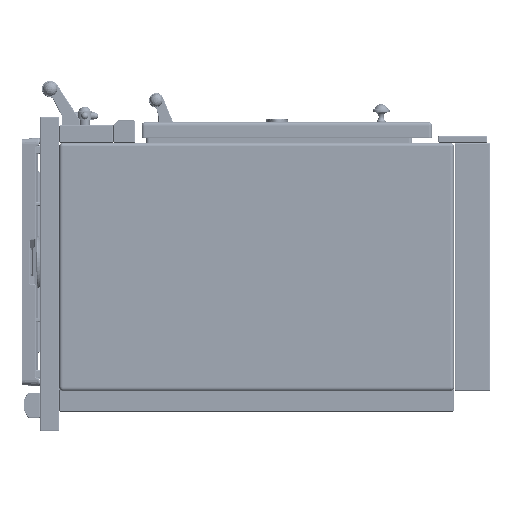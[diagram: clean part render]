
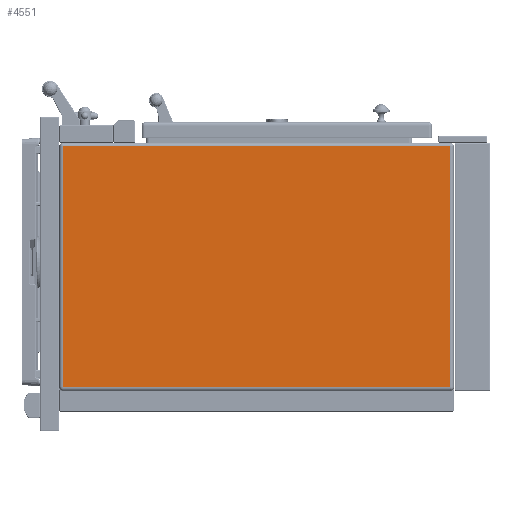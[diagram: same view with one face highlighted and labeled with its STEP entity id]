
A CAD part, left-side view. The second image highlights one B-rep face of the part: STEP entity #4551.
In plain terms, the highlighted planar face has unit normal (-1, 0, 0).
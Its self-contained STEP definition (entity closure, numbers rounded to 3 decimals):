
#387=DIRECTION('',(0.,1.,0.));
#388=VECTOR('',#387,801.);
#389=CARTESIAN_POINT('',(-950.,82.,249.));
#390=LINE('',#389,#388);
#391=DIRECTION('',(0.,0.,1.));
#392=VECTOR('',#391,498.);
#393=CARTESIAN_POINT('',(-950.,82.,-249.));
#394=LINE('',#393,#392);
#395=DIRECTION('',(0.,-1.,0.));
#396=VECTOR('',#395,801.);
#397=CARTESIAN_POINT('',(-950.,883.,-249.));
#398=LINE('',#397,#396);
#399=DIRECTION('',(0.,0.,-1.));
#400=VECTOR('',#399,498.);
#401=CARTESIAN_POINT('',(-950.,883.,249.));
#402=LINE('',#401,#400);
#3159=CARTESIAN_POINT('',(-950.,82.,249.));
#3160=CARTESIAN_POINT('',(-950.,883.,249.));
#3161=VERTEX_POINT('',#3159);
#3162=VERTEX_POINT('',#3160);
#3163=CARTESIAN_POINT('',(-950.,82.,-249.));
#3164=VERTEX_POINT('',#3163);
#3181=CARTESIAN_POINT('',(-950.,883.,-249.));
#3182=VERTEX_POINT('',#3181);
#4538=CARTESIAN_POINT('',(-950.,0.,0.));
#4539=DIRECTION('',(1.,0.,0.));
#4540=DIRECTION('',(0.,0.,-1.));
#4541=AXIS2_PLACEMENT_3D('',#4538,#4539,#4540);
#4542=PLANE('',#4541);
#4543=ORIENTED_EDGE('',*,*,#4483,.F.);
#4544=ORIENTED_EDGE('',*,*,#4521,.F.);
#4546=ORIENTED_EDGE('',*,*,#4545,.F.);
#4548=ORIENTED_EDGE('',*,*,#4547,.F.);
#4549=EDGE_LOOP('',(#4543,#4544,#4546,#4548));
#4550=FACE_OUTER_BOUND('',#4549,.F.);
#4483=EDGE_CURVE('',#3161,#3162,#390,.T.);
#4521=EDGE_CURVE('',#3164,#3161,#394,.T.);
#4545=EDGE_CURVE('',#3182,#3164,#398,.T.);
#4547=EDGE_CURVE('',#3162,#3182,#402,.T.);
#4551=ADVANCED_FACE('',(#4550),#4542,.F.);
